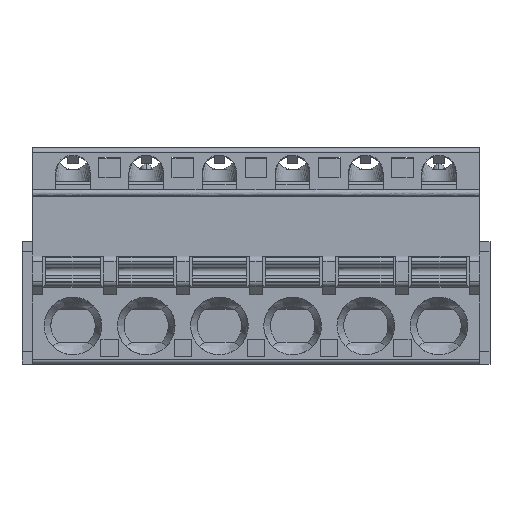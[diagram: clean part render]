
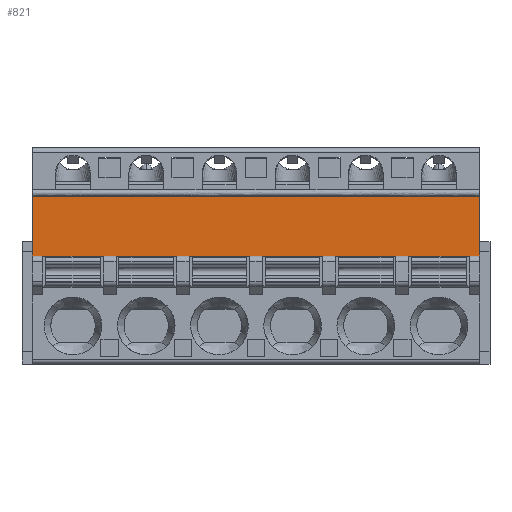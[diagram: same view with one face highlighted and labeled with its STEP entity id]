
A CAD part, front view. The second image highlights one B-rep face of the part: STEP entity #821.
In plain terms, the highlighted planar face has unit normal (0, -1, 0).
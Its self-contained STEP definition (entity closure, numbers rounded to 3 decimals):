
#821=ADVANCED_FACE('',(#10588),#10590,.T.);
#10588=FACE_BOUND('',#10589,.T.);
#10589=EDGE_LOOP('',(#22144,#22145,#22146,#22147,#22148,#22149,#22150,#22151,#22152,
#22153,#22154,#22155,#22156,#22157,#22158,#22159));
#10590=PLANE('',#10591);
#10591=AXIS2_PLACEMENT_3D('',#10592,#10593,#10594);
#10592=CARTESIAN_POINT('',(31.494,-14.7,-54.534));
#10593=DIRECTION('',(0.,-1.,0.));
#10594=DIRECTION('',(0.,0.,1.));
#22144=ORIENTED_EDGE('',*,*,#28648,.F.);
#22145=ORIENTED_EDGE('',*,*,#28384,.T.);
#22146=ORIENTED_EDGE('',*,*,#28649,.T.);
#22147=ORIENTED_EDGE('',*,*,#28325,.F.);
#22148=ORIENTED_EDGE('',*,*,#28647,.F.);
#22149=ORIENTED_EDGE('',*,*,#28650,.T.);
#22150=ORIENTED_EDGE('',*,*,#28651,.F.);
#22151=ORIENTED_EDGE('',*,*,#28652,.T.);
#22152=ORIENTED_EDGE('',*,*,#28653,.F.);
#22153=ORIENTED_EDGE('',*,*,#28654,.T.);
#22154=ORIENTED_EDGE('',*,*,#28655,.F.);
#22155=ORIENTED_EDGE('',*,*,#28656,.T.);
#22156=ORIENTED_EDGE('',*,*,#28657,.F.);
#22157=ORIENTED_EDGE('',*,*,#28658,.T.);
#22158=ORIENTED_EDGE('',*,*,#28659,.F.);
#22159=ORIENTED_EDGE('',*,*,#28660,.T.);
#28325=EDGE_CURVE('',#31757,#31759,#31760,.T.);
#28384=EDGE_CURVE('',#31871,#31869,#31872,.T.);
#28647=EDGE_CURVE('',#32327,#31757,#32329,.T.);
#28648=EDGE_CURVE('',#31871,#32330,#32331,.T.);
#28649=EDGE_CURVE('',#31869,#31759,#32332,.T.);
#28650=EDGE_CURVE('',#32327,#32333,#32334,.T.);
#28651=EDGE_CURVE('',#32335,#32333,#32336,.T.);
#28652=EDGE_CURVE('',#32335,#32337,#32338,.T.);
#28653=EDGE_CURVE('',#32339,#32337,#32340,.T.);
#28654=EDGE_CURVE('',#32339,#32341,#32342,.T.);
#28655=EDGE_CURVE('',#32343,#32341,#32344,.T.);
#28656=EDGE_CURVE('',#32343,#32345,#32346,.T.);
#28657=EDGE_CURVE('',#32347,#32345,#32348,.T.);
#28658=EDGE_CURVE('',#32347,#32349,#32350,.T.);
#28659=EDGE_CURVE('',#32351,#32349,#32352,.T.);
#28660=EDGE_CURVE('',#32351,#32330,#32353,.T.);
#31757=VERTEX_POINT('',#37215);
#31759=VERTEX_POINT('',#37219);
#31760=LINE('',#37220,#37221);
#31869=VERTEX_POINT('',#38089);
#31871=VERTEX_POINT('',#38097);
#31872=LINE('',#38098,#38099);
#32327=VERTEX_POINT('',#39112);
#32329=LINE('',#39116,#39117);
#32330=VERTEX_POINT('',#39119);
#32331=LINE('',#39120,#39121);
#32332=B_SPLINE_CURVE_WITH_KNOTS('',1,
(#39123,#39124),
.UNSPECIFIED.,.F.,.F.,
(2,2),
(0.,1.),
.UNSPECIFIED.);
#32333=VERTEX_POINT('',#39125);
#32334=LINE('',#39126,#39127);
#32335=VERTEX_POINT('',#39129);
#32336=LINE('',#39130,#39131);
#32337=VERTEX_POINT('',#39133);
#32338=LINE('',#39134,#39135);
#32339=VERTEX_POINT('',#39137);
#32340=LINE('',#39138,#39139);
#32341=VERTEX_POINT('',#39141);
#32342=LINE('',#39142,#39143);
#32343=VERTEX_POINT('',#39145);
#32344=LINE('',#39146,#39147);
#32345=VERTEX_POINT('',#39149);
#32346=LINE('',#39150,#39151);
#32347=VERTEX_POINT('',#39153);
#32348=LINE('',#39154,#39155);
#32349=VERTEX_POINT('',#39157);
#32350=LINE('',#39158,#39159);
#32351=VERTEX_POINT('',#39161);
#32352=LINE('',#39162,#39163);
#32353=LINE('',#39165,#39166);
#37215=CARTESIAN_POINT('',(-15.54,-14.7,-7.5));
#37219=CARTESIAN_POINT('',(-15.54,-14.7,-3.35));
#37220=CARTESIAN_POINT('',(-15.54,-14.7,-7.5));
#37221=VECTOR('',#37222,1.);
#37222=DIRECTION('',(0.,0.,1.));
#38089=CARTESIAN_POINT('',(15.54,-14.7,-3.35));
#38097=CARTESIAN_POINT('',(15.54,-14.7,-7.5));
#38098=CARTESIAN_POINT('',(15.54,-14.7,-7.5));
#38099=VECTOR('',#38100,1.);
#38100=DIRECTION('',(0.,0.,1.));
#39112=CARTESIAN_POINT('',(-14.79,-14.7,-7.5));
#39116=CARTESIAN_POINT('',(-14.79,-14.7,-7.5));
#39117=VECTOR('',#39118,1.);
#39118=DIRECTION('',(-1.,0.,0.));
#39119=CARTESIAN_POINT('',(14.79,-14.7,-7.5));
#39120=CARTESIAN_POINT('',(15.54,-14.7,-7.5));
#39121=VECTOR('',#39122,1.);
#39122=DIRECTION('',(-1.,0.,0.));
#39123=CARTESIAN_POINT('',(15.54,-14.7,-3.35));
#39124=CARTESIAN_POINT('',(-15.54,-14.7,-3.35));
#39125=CARTESIAN_POINT('',(-10.61,-14.7,-7.5));
#39126=CARTESIAN_POINT('',(-14.79,-14.7,-7.5));
#39127=VECTOR('',#39128,1.);
#39128=DIRECTION('',(1.,0.,0.));
#39129=CARTESIAN_POINT('',(-9.71,-14.7,-7.5));
#39130=CARTESIAN_POINT('',(-9.71,-14.7,-7.5));
#39131=VECTOR('',#39132,1.);
#39132=DIRECTION('',(-1.,0.,0.));
#39133=CARTESIAN_POINT('',(-5.53,-14.7,-7.5));
#39134=CARTESIAN_POINT('',(-9.71,-14.7,-7.5));
#39135=VECTOR('',#39136,1.);
#39136=DIRECTION('',(1.,0.,0.));
#39137=CARTESIAN_POINT('',(-4.63,-14.7,-7.5));
#39138=CARTESIAN_POINT('',(-4.63,-14.7,-7.5));
#39139=VECTOR('',#39140,1.);
#39140=DIRECTION('',(-1.,0.,0.));
#39141=CARTESIAN_POINT('',(-0.45,-14.7,-7.5));
#39142=CARTESIAN_POINT('',(-4.63,-14.7,-7.5));
#39143=VECTOR('',#39144,1.);
#39144=DIRECTION('',(1.,0.,0.));
#39145=CARTESIAN_POINT('',(0.45,-14.7,-7.5));
#39146=CARTESIAN_POINT('',(0.45,-14.7,-7.5));
#39147=VECTOR('',#39148,1.);
#39148=DIRECTION('',(-1.,0.,0.));
#39149=CARTESIAN_POINT('',(4.63,-14.7,-7.5));
#39150=CARTESIAN_POINT('',(0.45,-14.7,-7.5));
#39151=VECTOR('',#39152,1.);
#39152=DIRECTION('',(1.,0.,0.));
#39153=CARTESIAN_POINT('',(5.53,-14.7,-7.5));
#39154=CARTESIAN_POINT('',(5.53,-14.7,-7.5));
#39155=VECTOR('',#39156,1.);
#39156=DIRECTION('',(-1.,0.,0.));
#39157=CARTESIAN_POINT('',(9.71,-14.7,-7.5));
#39158=CARTESIAN_POINT('',(5.53,-14.7,-7.5));
#39159=VECTOR('',#39160,1.);
#39160=DIRECTION('',(1.,0.,0.));
#39161=CARTESIAN_POINT('',(10.61,-14.7,-7.5));
#39162=CARTESIAN_POINT('',(10.61,-14.7,-7.5));
#39163=VECTOR('',#39164,1.);
#39164=DIRECTION('',(-1.,0.,0.));
#39165=CARTESIAN_POINT('',(10.61,-14.7,-7.5));
#39166=VECTOR('',#39167,1.);
#39167=DIRECTION('',(1.,0.,0.));
